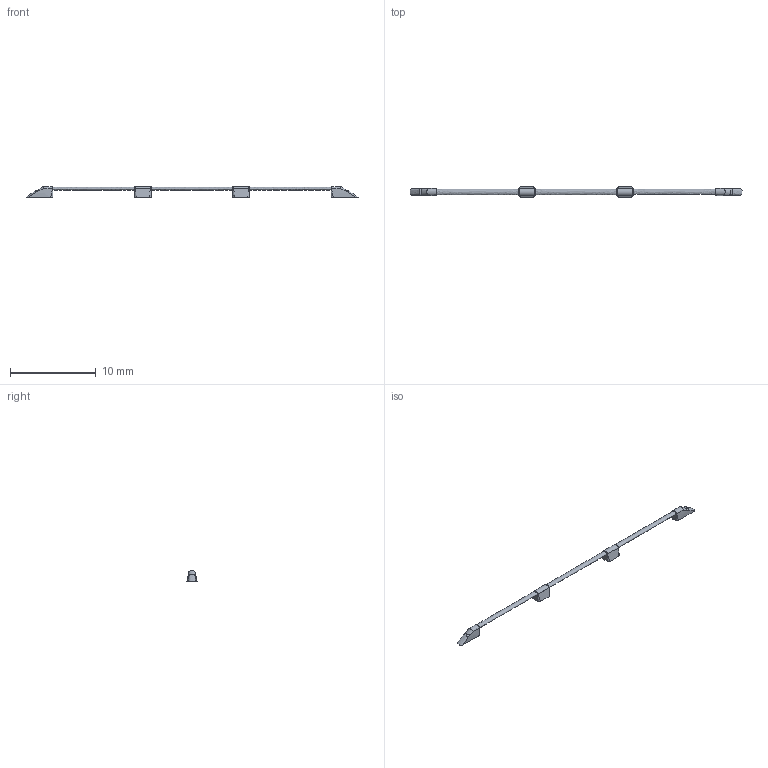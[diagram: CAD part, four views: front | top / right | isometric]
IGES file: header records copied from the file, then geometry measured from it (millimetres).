
Start section: IGES file generated from a XCAD drawing
Global section: file name: C:\Documents and Settings\Bill Harris\Desktop\UPLOADS\handles\alumetal.igs; native system: XCAD 3.1; preprocessor: XCAD IGES Translator v1.0; author: NONAME; organization: nautika watercraft; date: 1060817.150343; units: inch
Bounding box: 38.78 x 1.19 x 1.26 mm (x, y, z)
Surface area: 76.5 mm2 (no closed solid volume)
Topology: 0 solids, 0 shells, 45 faces, 177 edges, 174 vertices
Faces by surface type: bspline 45
